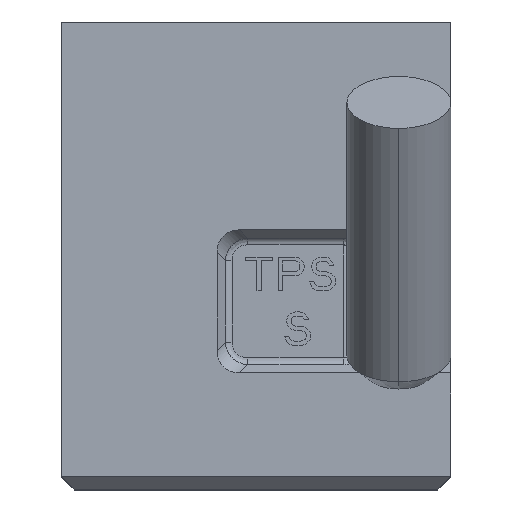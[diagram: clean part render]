
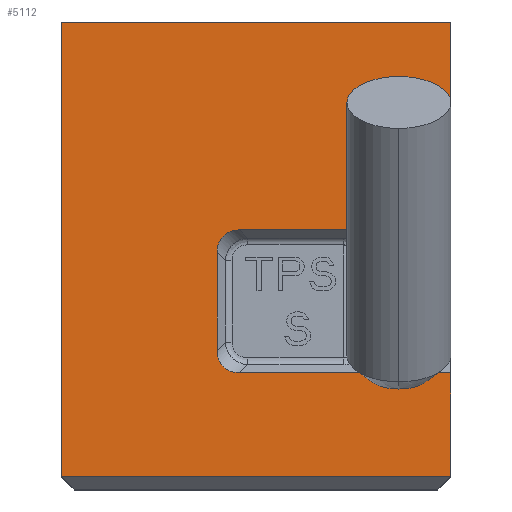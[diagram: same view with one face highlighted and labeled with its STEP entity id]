
A CAD part, top view. The second image highlights one B-rep face of the part: STEP entity #5112.
In plain terms, the highlighted planar face has unit normal (0, 0, 1).
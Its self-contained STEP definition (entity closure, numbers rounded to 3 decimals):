
#476=CARTESIAN_POINT('',(-1.5,9.134,3.));
#477=CARTESIAN_POINT('',(-1.5,9.206,3.));
#478=CARTESIAN_POINT('',(-1.486,9.336,3.));
#479=CARTESIAN_POINT('',(-1.418,9.557,3.));
#480=CARTESIAN_POINT('',(-1.272,9.772,3.));
#481=CARTESIAN_POINT('',(-1.057,9.918,3.));
#482=CARTESIAN_POINT('',(-0.836,9.986,3.));
#483=CARTESIAN_POINT('',(-0.706,10.,3.));
#484=CARTESIAN_POINT('',(-0.634,10.,3.));
#486=DIRECTION('',(0.,1.,0.));
#487=VECTOR('',#486,3.768);
#488=CARTESIAN_POINT('',(-1.5,5.366,3.));
#489=LINE('',#488,#487);
#490=CARTESIAN_POINT('',(-1.5,5.366,3.));
#491=CARTESIAN_POINT('',(-1.5,5.294,3.));
#492=CARTESIAN_POINT('',(-1.486,5.164,3.));
#493=CARTESIAN_POINT('',(-1.418,4.943,3.));
#494=CARTESIAN_POINT('',(-1.272,4.728,3.));
#495=CARTESIAN_POINT('',(-1.057,4.582,3.));
#496=CARTESIAN_POINT('',(-0.836,4.514,3.));
#497=CARTESIAN_POINT('',(-0.706,4.5,3.));
#498=CARTESIAN_POINT('',(-0.634,4.5,3.));
#500=DIRECTION('',(-1.,0.,0.));
#501=VECTOR('',#500,8.134);
#502=CARTESIAN_POINT('',(7.5,4.5,3.));
#503=LINE('',#502,#501);
#504=DIRECTION('',(0.,-1.,0.));
#505=VECTOR('',#504,4.);
#506=CARTESIAN_POINT('',(7.5,4.5,3.));
#507=LINE('',#506,#505);
#508=DIRECTION('',(-1.,0.,0.));
#509=VECTOR('',#508,15.);
#510=CARTESIAN_POINT('',(7.5,0.5,3.));
#511=LINE('',#510,#509);
#512=DIRECTION('',(0.,1.,0.));
#513=VECTOR('',#512,17.5);
#514=CARTESIAN_POINT('',(-7.5,0.5,3.));
#515=LINE('',#514,#513);
#516=DIRECTION('',(1.,0.,0.));
#517=VECTOR('',#516,15.);
#518=CARTESIAN_POINT('',(-7.5,18.,3.));
#519=LINE('',#518,#517);
#520=DIRECTION('',(0.,-1.,0.));
#521=VECTOR('',#520,8.);
#522=CARTESIAN_POINT('',(7.5,18.,3.));
#523=LINE('',#522,#521);
#528=DIRECTION('',(1.,0.,0.));
#529=VECTOR('',#528,8.134);
#530=CARTESIAN_POINT('',(-0.634,10.,3.));
#531=LINE('',#530,#529);
#3133=CARTESIAN_POINT('',(-1.5,5.366,3.));
#3134=CARTESIAN_POINT('',(-1.5,9.134,3.));
#3135=VERTEX_POINT('',#3133);
#3136=VERTEX_POINT('',#3134);
#3137=VERTEX_POINT('',#484);
#3138=CARTESIAN_POINT('',(7.5,10.,3.));
#3139=VERTEX_POINT('',#3138);
#3140=CARTESIAN_POINT('',(7.5,4.5,3.));
#3141=CARTESIAN_POINT('',(-0.634,4.5,3.));
#3142=VERTEX_POINT('',#3140);
#3143=VERTEX_POINT('',#3141);
#3165=CARTESIAN_POINT('',(7.5,18.,3.));
#3166=VERTEX_POINT('',#3165);
#3167=CARTESIAN_POINT('',(-7.5,18.,3.));
#3168=VERTEX_POINT('',#3167);
#3232=CARTESIAN_POINT('',(7.5,0.5,3.));
#3233=VERTEX_POINT('',#3232);
#3250=CARTESIAN_POINT('',(-7.5,0.5,3.));
#3251=VERTEX_POINT('',#3250);
#5089=CARTESIAN_POINT('',(0.,0.,3.));
#5090=DIRECTION('',(0.,0.,1.));
#5091=DIRECTION('',(1.,0.,0.));
#5092=AXIS2_PLACEMENT_3D('',#5089,#5090,#5091);
#5093=PLANE('',#5092);
#5095=ORIENTED_EDGE('',*,*,#5094,.F.);
#5097=ORIENTED_EDGE('',*,*,#5096,.F.);
#5099=ORIENTED_EDGE('',*,*,#5098,.F.);
#5101=ORIENTED_EDGE('',*,*,#5100,.T.);
#5103=ORIENTED_EDGE('',*,*,#5102,.F.);
#5104=ORIENTED_EDGE('',*,*,#4969,.T.);
#5105=ORIENTED_EDGE('',*,*,#5081,.T.);
#5107=ORIENTED_EDGE('',*,*,#5106,.T.);
#5108=ORIENTED_EDGE('',*,*,#4598,.T.);
#5109=ORIENTED_EDGE('',*,*,#4981,.T.);
#5110=EDGE_LOOP('',(#5095,#5097,#5099,#5101,#5103,#5104,#5105,#5107,#5108,
#5109));
#5111=FACE_OUTER_BOUND('',#5110,.F.);
#5112=ADVANCED_FACE('',(#5111),#5093,.T.);
#485=B_SPLINE_CURVE_WITH_KNOTS('',3,(#476,#477,#478,#479,#480,#481,#482,#483,
#484),.UNSPECIFIED.,.F.,.F.,(4,1,1,1,1,1,4),(0.,0.125,0.25,0.5,0.75,
0.875,1.),.UNSPECIFIED.);
#499=B_SPLINE_CURVE_WITH_KNOTS('',3,(#490,#491,#492,#493,#494,#495,#496,#497,
#498),.UNSPECIFIED.,.F.,.F.,(4,1,1,1,1,1,4),(0.,0.125,0.25,0.5,0.75,
0.875,1.),.UNSPECIFIED.);
#4598=EDGE_CURVE('',#3168,#3166,#519,.T.);
#4969=EDGE_CURVE('',#3142,#3233,#507,.T.);
#4981=EDGE_CURVE('',#3166,#3139,#523,.T.);
#5081=EDGE_CURVE('',#3233,#3251,#511,.T.);
#5094=EDGE_CURVE('',#3137,#3139,#531,.T.);
#5096=EDGE_CURVE('',#3136,#3137,#485,.T.);
#5098=EDGE_CURVE('',#3135,#3136,#489,.T.);
#5100=EDGE_CURVE('',#3135,#3143,#499,.T.);
#5102=EDGE_CURVE('',#3142,#3143,#503,.T.);
#5106=EDGE_CURVE('',#3251,#3168,#515,.T.);
